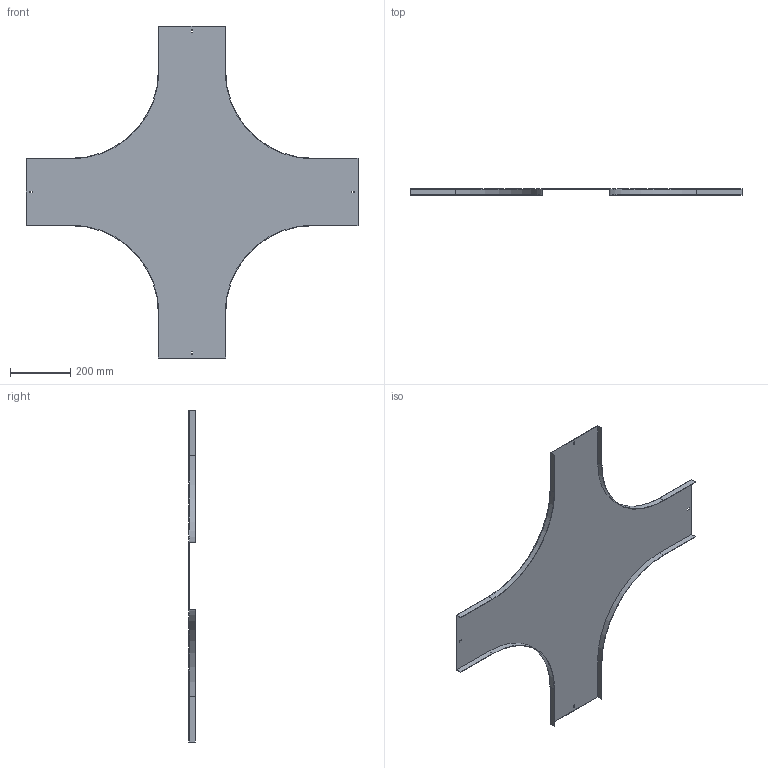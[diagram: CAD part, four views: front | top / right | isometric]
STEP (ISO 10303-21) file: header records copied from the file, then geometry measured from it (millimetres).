
FILE_DESCRIPTION (( 'STEP AP214' ), '1' );
FILE_NAME ('17N3P200.step', '2025-02-21T13:56:56', ( '' ), ( '' ), 'SwSTEP 2.0', 'SolidWorks 2023', '' );
FILE_SCHEMA (( 'AUTOMOTIVE_DESIGN' ));
Length unit declared in the file: millimetre
Products named in the file (1): 17N3P200
Bounding box: 1100 x 20 x 1100 mm (x, y, z)
Volume: 851859.4 mm3; surface area: 1142077.6 mm2
Topology: 1 solids, 1 shells, 50 faces, 144 edges, 96 vertices
Faces by surface type: plane 42, cylinder 8
Entity records: 1663 total; most frequent: CARTESIAN_POINT 291, ORIENTED_EDGE 288, DIRECTION 262, EDGE_CURVE 144, VECTOR 128, LINE 128, VERTEX_POINT 96, AXIS2_PLACEMENT_3D 67
